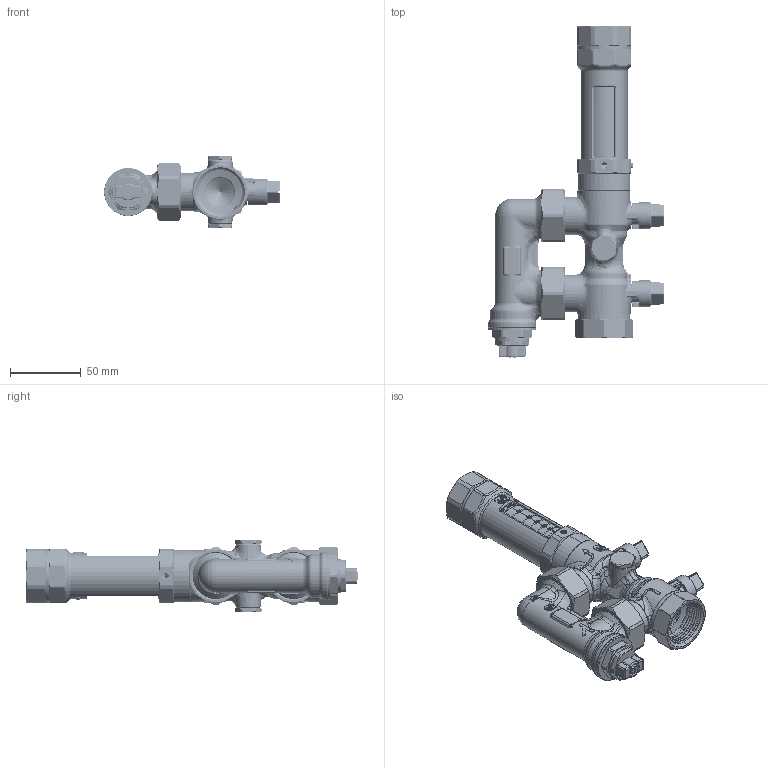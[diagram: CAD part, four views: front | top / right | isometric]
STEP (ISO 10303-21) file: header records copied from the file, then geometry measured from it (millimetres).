
FILE_DESCRIPTION (( 'STEP AP214' ), '1' );
FILE_NAME ('AHS500.STEP', '2023-12-04T09:31:17', ( '' ), ( '' ), 'SwSTEP 2.0', 'SolidWorks 2022', '' );
FILE_SCHEMA (( 'AUTOMOTIVE_DESIGN' ));
Length unit declared in the file: millimetre
Products named in the file (26): AHS500; C2605055; 31605404; 31505553; 32205004; 32225004; 32225027; 32605055; 30105763; 31605403; 52705005; 52110008; 60105762; 70105762; M2605055; 20105762; 31605332; 60105021; 90105762; 52905637; 50109111; 52110003; 30105762; 54005000; 32205027; 33605005
Assembly tree (32 placements, depth 7):
  AHS500
    70105762
      90105762
        20105762
          60105762
            30105762
            32225004  x2
              32205004
              52905637
          31605332
          52705005  x4
          31605404
        52110008  x2
        33605005  x2
      31505553  x2
      60105021
        30105763
        31605403
        54005000
      52110003
    C2605055
      M2605055
        32605055
        32225027
          32205027
        50109111
Bounding box: 124.2 x 234.45 x 51 mm (x, y, z)
Volume: 160952.7 mm3; surface area: 130418.1 mm2
Topology: 26 solids, 29 shells, 2769 faces, 7150 edges, 4483 vertices
Faces by surface type: cylinder 822, plane 683, bspline 638, cone 371, torus 214, sphere 41
Full cylindrical faces by diameter (mm): 3.422 x2
Entity records: 199045 total; most frequent: CARTESIAN_POINT 118143, ORIENTED_EDGE 12589, DIRECTION 9219, EDGE_CURVE 6299, VERTEX_POINT 3986, AXIS2_PLACEMENT_3D 3632, EDGE_LOOP 2593, UNCERTAINTY_MEASURE_WITH_UNIT 2506
